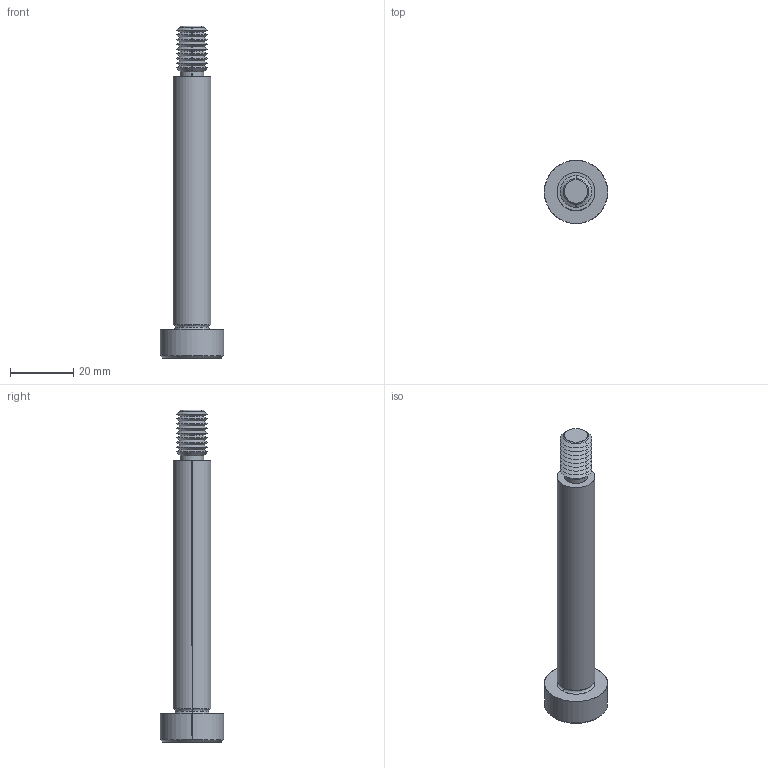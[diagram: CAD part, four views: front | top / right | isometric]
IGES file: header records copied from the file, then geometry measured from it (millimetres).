
Start section: SolidWorks IGES file using analytic representation for surfaces
Global section: file name: C:\Users\IanO\Documents\Temp Folder\GENERAL\SCREW REVISION\P0130_v2\P0130.T5_v2_20220106_IGES\P0130.120-080-T5.igs; native system: SolidWorks 2019; preprocessor: SolidWorks 2019; author: IanO; date: 220106.225140; units: millimetre
Bounding box: 20 x 20 x 105 mm (x, y, z)
Surface area: 5133.1 mm2 (no closed solid volume)
Topology: 0 solids, 0 shells, 76 faces, 564 edges, 562 vertices
Faces by surface type: revolution 56, bspline 20
